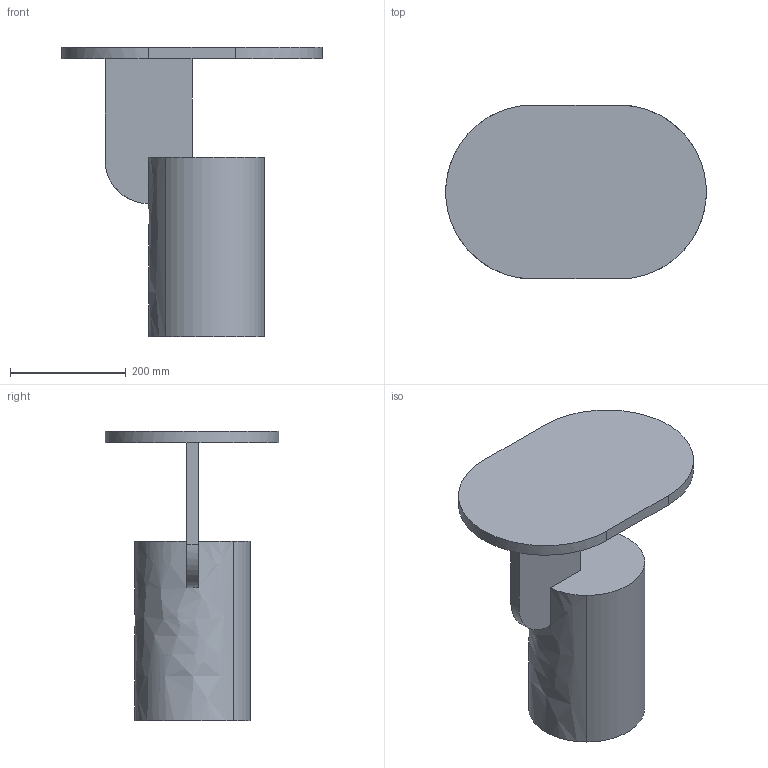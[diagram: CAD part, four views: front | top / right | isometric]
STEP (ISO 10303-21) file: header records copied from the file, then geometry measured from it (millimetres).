
FILE_DESCRIPTION(/* description */ (''),/* implementation_level */ '2;1');
FILE_NAME(/* name */ 'I336F4~J',/* time_stamp */ '2018-07-23T11:57:19+02:00',/* author */ (''),/* organization */ (''),/* preprocessor_version */ 'ST-DEVELOPER v15',/* originating_system */ '',/* authorisation */ '');
FILE_SCHEMA (('AUTOMOTIVE_DESIGN'));
Length unit declared in the file: millimetre
Products named in the file (1): Document
Bounding box: 449.57 x 300 x 500 mm (x, y, z)
Volume: 12729804.1 mm3; surface area: 578630.7 mm2
Topology: 1 solids, 1 shells, 17 faces, 41 edges, 27 vertices
Faces by surface type: bspline 17
Entity records: 965 total; most frequent: CARTESIAN_POINT 468, ORIENTED_EDGE 82, PCURVE 82, DEFINITIONAL_REPRESENTATION 82, B_SPLINE_CURVE_WITH_KNOTS 58, SURFACE_CURVE 41, EDGE_CURVE 41, VERTEX_POINT 27
